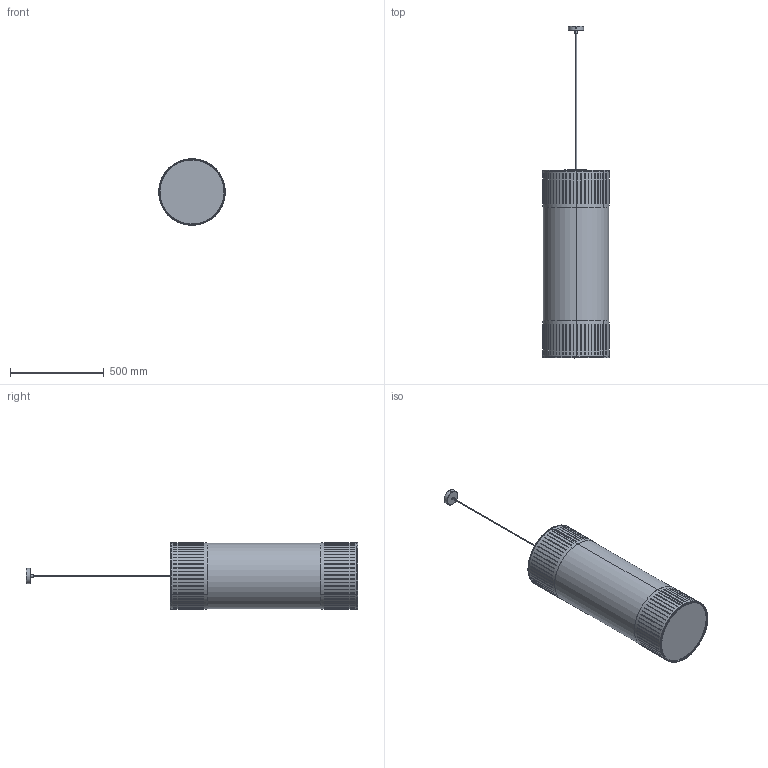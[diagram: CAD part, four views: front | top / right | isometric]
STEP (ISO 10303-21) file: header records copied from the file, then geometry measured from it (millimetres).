
FILE_DESCRIPTION (( 'STEP AP214' ), '1' );
FILE_NAME ('TAMÍZ PENDANT.STEP', '2025-07-23T11:58:09', ( '' ), ( '' ), 'SwSTEP 2.0', 'SolidWorks 2016', '' );
FILE_SCHEMA (( 'AUTOMOTIVE_DESIGN' ));
Length unit declared in the file: millimetre
Products named in the file (32): PIEZA INFERIOR CASQUILLO BOMBILLA E27; ESTRUCTURA PANTALLA TAMIZ PENDANT; PASACABLES NEGRO Ø10MM; BOMBILLA E27; PANTALLA TROQUELADA SUPERIOR; PIEZA SUPERIOR CASQUILLO BOMBILLA E27; FLORON NEGRO TECHO; DIFUSOR LAMPARA PANTALLA TUBO Ø35CM COLGANTE; PANTALLA PRUEBAS ACABADO PARA RENDER; EMBELLECEDOR TELA PANTALLA REDONDA; ARANDELA CASQUILLO BOMBILLA E27; ANCLAJE A TECHO PARA EMBELLECEDOR L&D; CABLE ELECTRICO; PANTALLA MADERA CILINDRICA CON DOBLE CHAPA MADERA SIN AROS FIJACION; CASQUILLO CON ARANDELAS ROSCADA PARA BOMBILLA E27; TAMÍZ PENDANT
Assembly tree (18 placements, depth 3):
  PIEZA INFERIOR CASQUILLO BOMBILLA E27
  ESTRUCTURA PANTALLA TAMIZ PENDANT
  PANTALLA TROQUELADA SUPERIOR
  DIFUSOR LAMPARA PANTALLA TUBO Ø35CM COLGANTE
  PASACABLES NEGRO Ø10MM
Bounding box: 354.46 x 1770.53 x 354.46 mm (x, y, z)
Volume: 687043.6 mm3; surface area: 2382078.8 mm2
Topology: 18 solids, 19 shells, 863 faces, 2502 edges, 1648 vertices
Faces by surface type: plane 600, cylinder 213, torus 46, cone 2, sphere 2
Entity records: 21990 total; most frequent: CARTESIAN_POINT 5164, DIRECTION 3350, ORIENTED_EDGE 3340, EDGE_CURVE 1672, AXIS2_PLACEMENT_3D 1241, VERTEX_POINT 1095, VECTOR 868, LINE 868
